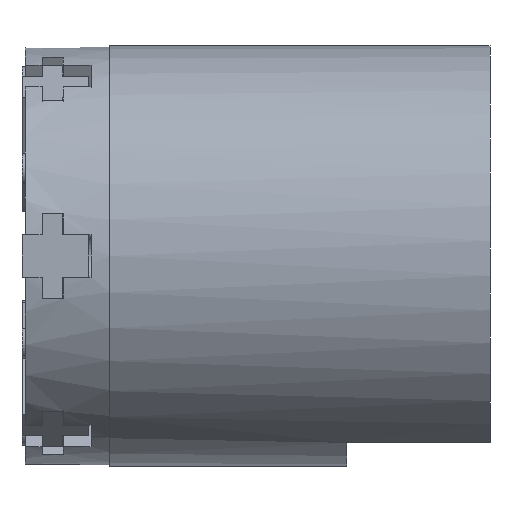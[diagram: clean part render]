
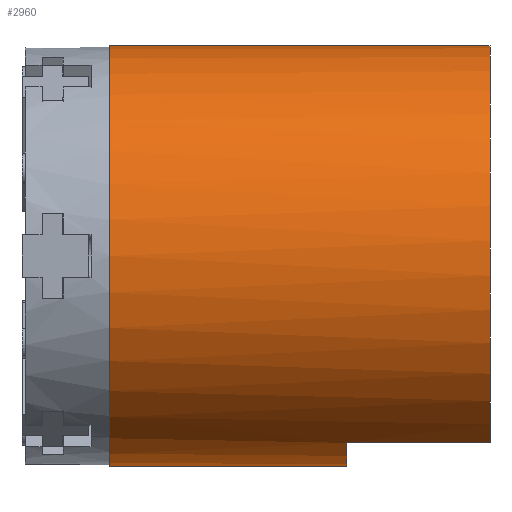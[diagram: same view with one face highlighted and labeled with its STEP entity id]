
A CAD part, left-side view. The second image highlights one B-rep face of the part: STEP entity #2960.
In plain terms, the highlighted cylindrical face has radius 31.75 mm (diameter 63.5 mm), a partial arc.
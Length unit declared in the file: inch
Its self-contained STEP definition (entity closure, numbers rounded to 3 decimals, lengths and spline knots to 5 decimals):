
#14 = VECTOR ( 'NONE', #8260, 39.37008 ) ;
#327 = CARTESIAN_POINT ( 'NONE',  ( -0.5748, 0.85, -1.11 ) ) ;
#330 = VERTEX_POINT ( 'NONE', #6199 ) ;
#709 = CARTESIAN_POINT ( 'NONE',  ( 0., 2.25984, 0. ) ) ;
#1047 = CARTESIAN_POINT ( 'NONE',  ( 0., 0.85, 0. ) ) ;
#1133 = CYLINDRICAL_SURFACE ( 'NONE', #2600, 1.25 ) ;
#1443 = CARTESIAN_POINT ( 'NONE',  ( 0., 2.25984, -1.25 ) ) ;
#1492 = VERTEX_POINT ( 'NONE', #1443 ) ;
#1534 = DIRECTION ( 'NONE',  ( 0., 0., 1. ) ) ;
#1630 = FACE_OUTER_BOUND ( 'NONE', #3595, .T. ) ;
#1730 = EDGE_CURVE ( 'NONE', #3123, #9945, #8831, .T. ) ;
#1800 = LINE ( 'NONE', #9604, #5834 ) ;
#1852 = DIRECTION ( 'NONE',  ( 0., 0., 1. ) ) ;
#2534 = ORIENTED_EDGE ( 'NONE', *, *, #1730, .F. ) ;
#2584 = ORIENTED_EDGE ( 'NONE', *, *, #7015, .T. ) ;
#2600 = AXIS2_PLACEMENT_3D ( 'NONE', #5458, #3878, #8681 ) ;
#2670 = CARTESIAN_POINT ( 'NONE',  ( -0.5748, 2.25984, -1.11 ) ) ;
#2799 = DIRECTION ( 'NONE',  ( 0., 1., 0. ) ) ;
#2923 = ORIENTED_EDGE ( 'NONE', *, *, #6174, .F. ) ;
#2960 = ADVANCED_FACE ( 'NONE', ( #1630 ), #1133, .T. ) ;
#3123 = VERTEX_POINT ( 'NONE', #8808 ) ;
#3280 = CIRCLE ( 'NONE', #4084, 1.25 ) ;
#3378 = EDGE_CURVE ( 'NONE', #8705, #8992, #7188, .T. ) ;
#3595 = EDGE_LOOP ( 'NONE', ( #2534, #8036, #2584, #4946, #2923, #9830 ) ) ;
#3777 = DIRECTION ( 'NONE',  ( 0., -1., 0. ) ) ;
#3878 = DIRECTION ( 'NONE',  ( 0., -1., 0. ) ) ;
#4084 = AXIS2_PLACEMENT_3D ( 'NONE', #7603, #2799, #8392 ) ;
#4543 = AXIS2_PLACEMENT_3D ( 'NONE', #1047, #6677, #1852 ) ;
#4593 = LINE ( 'NONE', #2670, #14 ) ;
#4717 = EDGE_CURVE ( 'NONE', #330, #9945, #3280, .T. ) ;
#4946 = ORIENTED_EDGE ( 'NONE', *, *, #3378, .T. ) ;
#5458 = CARTESIAN_POINT ( 'NONE',  ( 0., 2.25984, 0. ) ) ;
#5834 = VECTOR ( 'NONE', #8013, 39.37008 ) ;
#5841 = CIRCLE ( 'NONE', #7860, 1.25 ) ;
#6174 = EDGE_CURVE ( 'NONE', #330, #8992, #4593, .T. ) ;
#6199 = CARTESIAN_POINT ( 'NONE',  ( -0.5748, 0., -1.11 ) ) ;
#6349 = DIRECTION ( 'NONE',  ( 0., 1., 0. ) ) ;
#6619 = EDGE_CURVE ( 'NONE', #1492, #3123, #5841, .T. ) ;
#6677 = DIRECTION ( 'NONE',  ( 0., 1., 0. ) ) ;
#6694 = VECTOR ( 'NONE', #3777, 39.37008 ) ;
#7015 = EDGE_CURVE ( 'NONE', #1492, #8705, #1800, .T. ) ;
#7188 = CIRCLE ( 'NONE', #4543, 1.25 ) ;
#7320 = CARTESIAN_POINT ( 'NONE',  ( 0., 0., 1.25 ) ) ;
#7603 = CARTESIAN_POINT ( 'NONE',  ( 0., 0., 0. ) ) ;
#7860 = AXIS2_PLACEMENT_3D ( 'NONE', #709, #6349, #1534 ) ;
#8013 = DIRECTION ( 'NONE',  ( 0., -1., 0. ) ) ;
#8036 = ORIENTED_EDGE ( 'NONE', *, *, #6619, .F. ) ;
#8260 = DIRECTION ( 'NONE',  ( 0., 1., 0. ) ) ;
#8392 = DIRECTION ( 'NONE',  ( 0., 0., 1. ) ) ;
#8612 = CARTESIAN_POINT ( 'NONE',  ( 0., 2.25984, 1.25 ) ) ;
#8681 = DIRECTION ( 'NONE',  ( 0., 0., -1. ) ) ;
#8705 = VERTEX_POINT ( 'NONE', #10419 ) ;
#8808 = CARTESIAN_POINT ( 'NONE',  ( 0., 2.25984, 1.25 ) ) ;
#8831 = LINE ( 'NONE', #8612, #6694 ) ;
#8992 = VERTEX_POINT ( 'NONE', #327 ) ;
#9604 = CARTESIAN_POINT ( 'NONE',  ( 0., 2.25984, -1.25 ) ) ;
#9830 = ORIENTED_EDGE ( 'NONE', *, *, #4717, .T. ) ;
#9945 = VERTEX_POINT ( 'NONE', #7320 ) ;
#10419 = CARTESIAN_POINT ( 'NONE',  ( 0., 0.85, -1.25 ) ) ;
